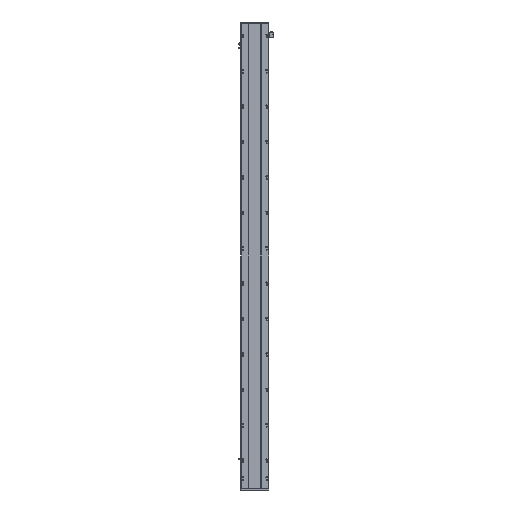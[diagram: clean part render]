
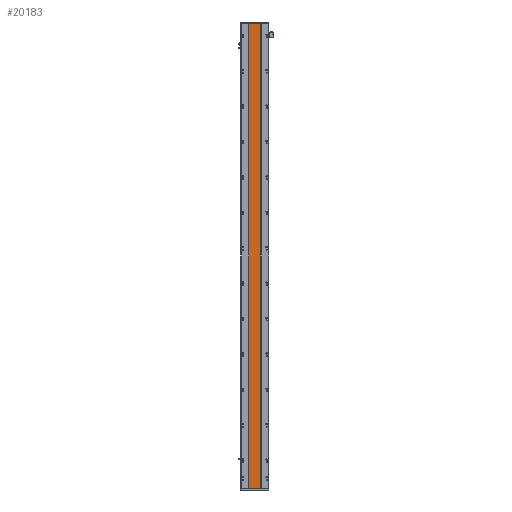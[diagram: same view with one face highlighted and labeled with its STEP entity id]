
A CAD part, front view. The second image highlights one B-rep face of the part: STEP entity #20183.
In plain terms, the highlighted planar face has unit normal (0, -1, 0).
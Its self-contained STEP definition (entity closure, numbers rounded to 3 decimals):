
#2178 = CARTESIAN_POINT ( 'NONE',  ( 129.288, 16.9, 2836. ) ) ;
#3228 = VECTOR ( 'NONE', #43648, 1000. ) ;
#3564 = DIRECTION ( 'NONE',  ( 0., 0., -1. ) ) ;
#4551 = LINE ( 'NONE', #37733, #26667 ) ;
#5893 = CARTESIAN_POINT ( 'NONE',  ( 205.288, 16.9, 2836. ) ) ;
#8083 = EDGE_CURVE ( 'NONE', #11734, #24563, #30484, .T. ) ;
#11287 = ORIENTED_EDGE ( 'NONE', *, *, #8083, .F. ) ;
#11734 = VERTEX_POINT ( 'NONE', #5893 ) ;
#13143 = ORIENTED_EDGE ( 'NONE', *, *, #18242, .T. ) ;
#13569 = VECTOR ( 'NONE', #23498, 1000. ) ;
#17746 = EDGE_CURVE ( 'NONE', #38110, #11734, #4551, .T. ) ;
#18242 = EDGE_CURVE ( 'NONE', #37730, #24563, #36859, .T. ) ;
#18526 = FACE_OUTER_BOUND ( 'NONE', #27152, .T. ) ;
#18535 = ORIENTED_EDGE ( 'NONE', *, *, #17746, .F. ) ;
#19819 = CARTESIAN_POINT ( 'NONE',  ( 129.288, 16.9, 0. ) ) ;
#20183 = ADVANCED_FACE ( 'NONE', ( #18526 ), #44217, .F. ) ;
#21522 = CARTESIAN_POINT ( 'NONE',  ( 129.288, 16.9, 2836. ) ) ;
#23498 = DIRECTION ( 'NONE',  ( 1., 0., 0. ) ) ;
#24563 = VERTEX_POINT ( 'NONE', #27136 ) ;
#25479 = DIRECTION ( 'NONE',  ( 0., 1., 0. ) ) ;
#26667 = VECTOR ( 'NONE', #30204, 1000. ) ;
#27136 = CARTESIAN_POINT ( 'NONE',  ( 205.288, 16.9, 0. ) ) ;
#27152 = EDGE_LOOP ( 'NONE', ( #13143, #11287, #18535, #31434 ) ) ;
#27223 = VECTOR ( 'NONE', #3564, 1000. ) ;
#28832 = AXIS2_PLACEMENT_3D ( 'NONE', #29100, #25479, #40410 ) ;
#28849 = CARTESIAN_POINT ( 'NONE',  ( 205.288, 16.9, 2836. ) ) ;
#29100 = CARTESIAN_POINT ( 'NONE',  ( 205.288, 16.9, 2836. ) ) ;
#30204 = DIRECTION ( 'NONE',  ( 1., 0., 0. ) ) ;
#30484 = LINE ( 'NONE', #28849, #3228 ) ;
#31434 = ORIENTED_EDGE ( 'NONE', *, *, #36914, .T. ) ;
#31758 = LINE ( 'NONE', #21522, #27223 ) ;
#36859 = LINE ( 'NONE', #44332, #13569 ) ;
#36914 = EDGE_CURVE ( 'NONE', #38110, #37730, #31758, .T. ) ;
#37730 = VERTEX_POINT ( 'NONE', #19819 ) ;
#37733 = CARTESIAN_POINT ( 'NONE',  ( 129.288, 16.9, 2836. ) ) ;
#38110 = VERTEX_POINT ( 'NONE', #2178 ) ;
#40410 = DIRECTION ( 'NONE',  ( -1., 0., 0. ) ) ;
#43648 = DIRECTION ( 'NONE',  ( 0., 0., -1. ) ) ;
#44217 = PLANE ( 'NONE',  #28832 ) ;
#44332 = CARTESIAN_POINT ( 'NONE',  ( 205.288, 16.9, 0. ) ) ;
